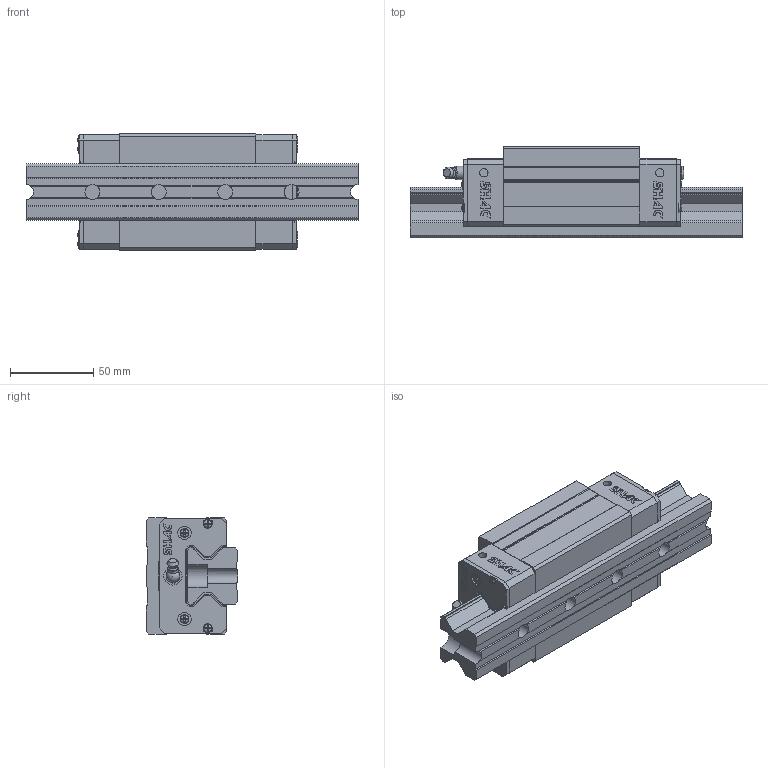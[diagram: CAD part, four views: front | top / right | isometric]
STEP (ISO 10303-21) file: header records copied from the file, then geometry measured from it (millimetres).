
FILE_DESCRIPTION( ( 'STEP AP214' ), '1' );
FILE_NAME( 'F:/品牌/SHAC 台湾鼎翰传动科技有限公司/3D滑块/GRH35CA1R200Z0CRC-0_0_1_1__.stp', '2025-04-21T22:52:20', ( 'License CC BY-ND 4.0' ), ( 'CADENAS' ), ' ', 'PARTsolutions', ' ' );
FILE_SCHEMA( ( 'AUTOMOTIVE_DESIGN { 1 0 10303 214 1 1 1 1 }' ) );
Length unit declared in the file: millimetre
Products named in the file (8): GRH35CA1R200Z0CRC-0/0(1_1_); _GR35R200-0/0(1)_RAIL; _GRH35CA_slider; _GRH35_C; _GRH35_P; _GR35_SCREW; _GH35_BOLT; _GH35-_G
Assembly tree (16 placements, depth 2):
  GRH35CA1R200Z0CRC-0/0(1_1_)
    _GR35R200-0/0(1)_RAIL
    _GRH35CA_slider
    _GRH35_C  x2
    _GRH35_P  x2
    _GR35_SCREW  x8
    _GH35_BOLT
    _GH35-_G
Bounding box: 200 x 55 x 70 mm (x, y, z)
Volume: 478931.6 mm3; surface area: 97744.9 mm2
Topology: 16 solids, 16 shells, 896 faces, 2401 edges, 1587 vertices
Faces by surface type: plane 726, cylinder 128, cone 22, torus 10, sphere 9, bspline 1
Full cylindrical faces by diameter (mm): 3.4 x4, 4.5 x5, 5 x6, 5.3 x8, 6 x2, 6.6 x2, 6.647 x6, 8 x5, 8.2 x1, 9 x4, 10.2 x2, 11 x2, 14 x4
Entity records: 20075 total; most frequent: CARTESIAN_POINT 2943, ORIENTED_EDGE 2642, DIRECTION 2586, EDGE_CURVE 1321, LINE 1056, VECTOR 1056, VERTEX_POINT 902, AXIS2_PLACEMENT_3D 765
